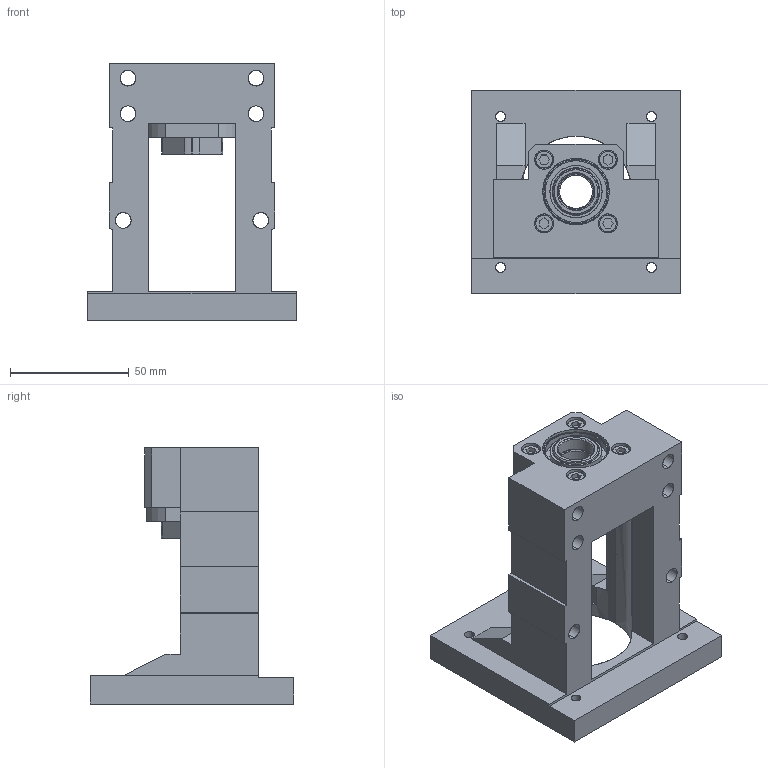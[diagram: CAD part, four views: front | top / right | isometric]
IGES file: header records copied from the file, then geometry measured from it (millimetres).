
Start section: SolidWorks IGES file using analytic representation for surfaces
Global section: file name: C:\Users\117\Desktop\MBCB15-EP.IGS; native system: SolidWorks 2018; preprocessor: SolidWorks 2018; author: 117; date: 230113.111451; units: millimetre
Bounding box: 88 x 86 x 108 mm (x, y, z)
Surface area: 73173 mm2 (no closed solid volume)
Topology: 0 solids, 0 shells, 557 faces, 10336 edges, 10264 vertices
Faces by surface type: revolution 306, bspline 251
